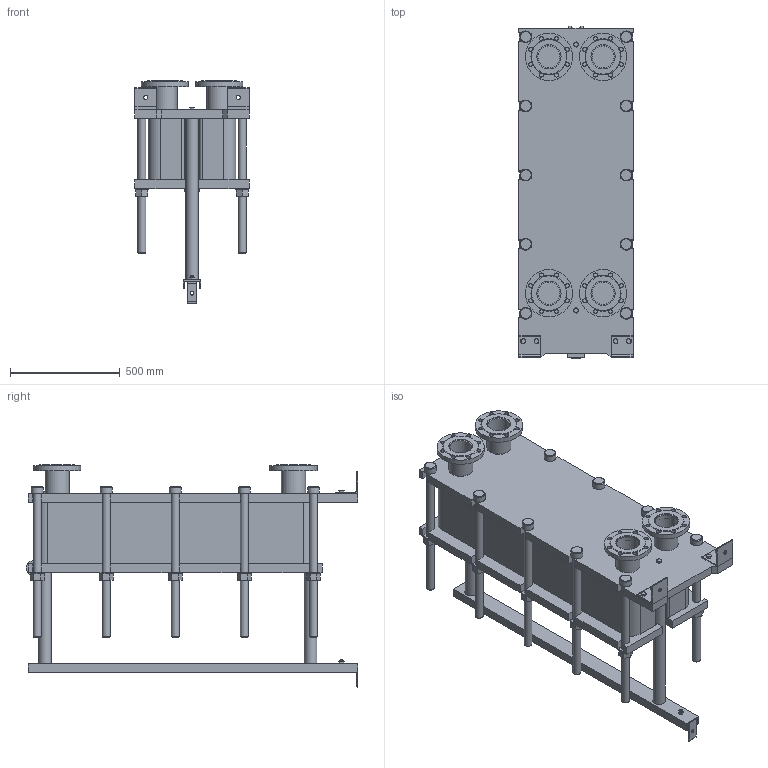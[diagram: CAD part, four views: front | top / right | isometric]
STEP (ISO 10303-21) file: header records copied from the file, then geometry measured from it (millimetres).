
FILE_DESCRIPTION(/* description */ (''),/* implementation_level */ '2;1');
FILE_NAME(/* name */ 'C:\Users\zhuro\Desktop\ENCO\TO\ЭН-04\ЭН-0,5-04-81-1.stp',/* time_stamp */ '2022-06-06T10:51:52+03:00',/* author */ ('zhuro'),/* organization */ (''),/* preprocessor_version */ 'ST-DEVELOPER v18.1',/* originating_system */ 'Autodesk Inventor 2022',/* authorisation */ '');
FILE_SCHEMA (('AUTOMOTIVE_DESIGN { 1 0 10303 214 3 1 1 }'));
Length unit declared in the file: millimetre
Products named in the file (1): ЭН-0,5-04-81-1
Bounding box: 520 x 1510 x 1010.5 mm (x, y, z)
Volume: 209839881.8 mm3; surface area: 7937450.1 mm2
Topology: 45 solids, 45 shells, 668 faces, 1611 edges, 1048 vertices
Faces by surface type: plane 457, cylinder 166, cone 39, torus 6
Full cylindrical faces by diameter (mm): 8 x4, 10 x2, 16 x8, 18 x35, 36 x25, 40 x2, 42 x1, 45 x4, 54 x10, 57 x2, 60 x10, 68 x2, 100 x4, 110 x8, 215 x4
Entity records: 23607 total; most frequent: CARTESIAN_POINT 7348, DIRECTION 3371, ORIENTED_EDGE 3142, EDGE_CURVE 1571, AXIS2_PLACEMENT_3D 1199, VERTEX_POINT 1044, LINE 973, VECTOR 973
